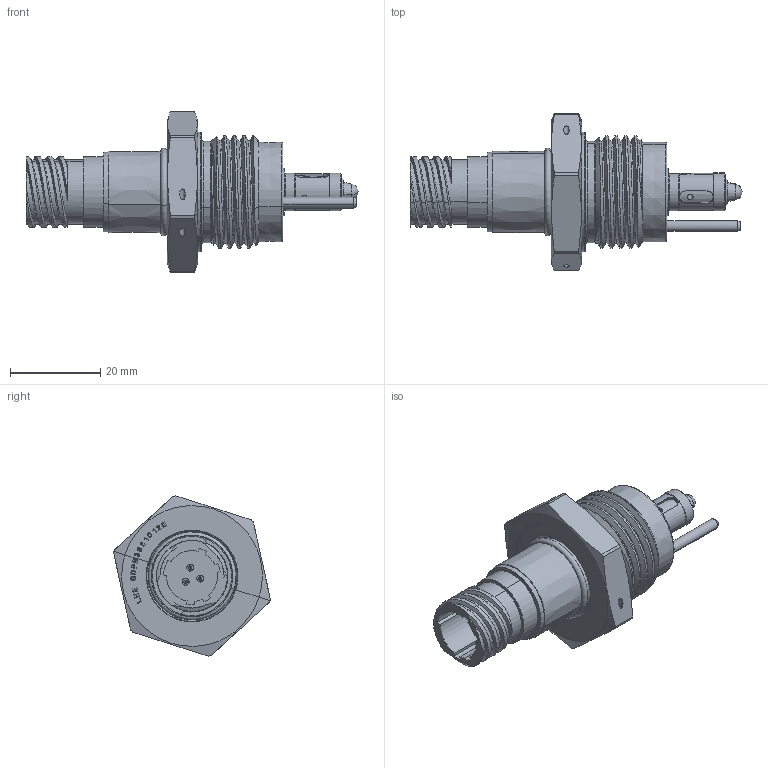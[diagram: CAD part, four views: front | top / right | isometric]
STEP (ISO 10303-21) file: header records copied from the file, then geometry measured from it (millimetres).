
FILE_DESCRIPTION(('Creo Elements/Direct Modeling STEP Export'),'2;1');
FILE_NAME('SDPB3321012E.stp','2021-04-08T14:38:38',(''),(''),'Creo Elements/Direct Modeling STEP processor for AP214 (Solid Model)','Creo Elements/Direct Modeling 18.1 03-Mar-2012 (C) Parametric Technology GmbH','');
FILE_SCHEMA(('AUTOMOTIVE_DESIGN { 1 0 10303 214 1 1 1 1 }'));
Products named in the file (2): SDPB3321012E
Assembly tree (1 placements, depth 2):
  SDPB3321012E
    SDPB3321012E
Bounding box: 73.67 x 34.8 x 35.56 mm (x, y, z)
Volume: 19703.8 mm3; surface area: 7521.9 mm2
Topology: 1 solids, 1 shells, 783 faces, 2162 edges, 1411 vertices
Faces by surface type: plane 592, cone 92, cylinder 64, torus 26, bspline 9
Entity records: 42966 total; most frequent: CARTESIAN_POINT 23305, ORIENTED_EDGE 4320, DIRECTION 2964, EDGE_CURVE 2160, VERTEX_POINT 1411, VECTOR 1234, LINE 1234, AXIS2_PLACEMENT_3D 865
